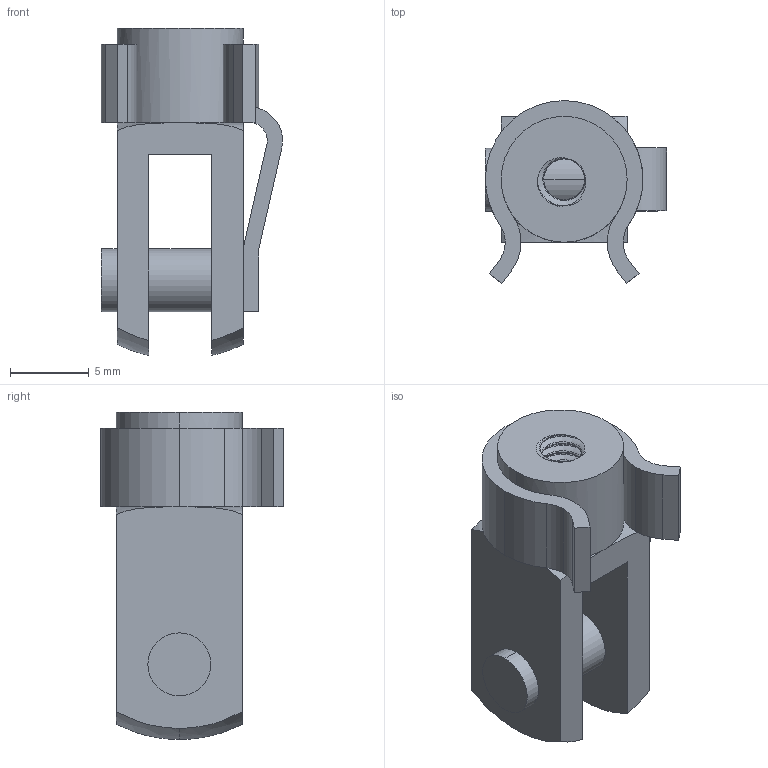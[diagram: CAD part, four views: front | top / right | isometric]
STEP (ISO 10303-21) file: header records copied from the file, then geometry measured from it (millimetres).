
FILE_DESCRIPTION((''),'2;1');
FILE_NAME('FR8C10.stp','2008-03-02T20:52:48',('BP'),('AZ PNEUMATICA S.r.l.'),'Mechanical Desktop 2006','Mechanical Desktop 2006','Via Marco Biagi 6, 20020 Misinto (MI) Italia, azpneu@tin.it');
FILE_SCHEMA(('CONFIG_CONTROL_DESIGN'));
Length unit declared in the file: millimetre
Products named in the file (2): PREDNJA VILJUSKA; VILJUSKA
Assembly tree (1 placements, depth 2):
  PREDNJA VILJUSKA
    VILJUSKA
Bounding box: 11.5 x 11.61 x 20.77 mm (x, y, z)
Volume: 1012.1 mm3; surface area: 1246.1 mm2
Topology: 1 solids, 1 shells, 82 faces, 237 edges, 157 vertices
Faces by surface type: cylinder 45, plane 24, bspline 13
Entity records: 7735 total; most frequent: CARTESIAN_POINT 5573, ORIENTED_EDGE 474, DIRECTION 379, EDGE_CURVE 237, VERTEX_POINT 157, AXIS2_PLACEMENT_3D 142, VECTOR 95, LINE 95
